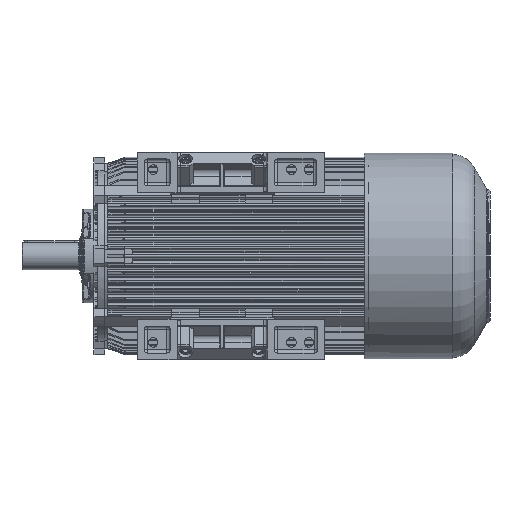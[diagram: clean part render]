
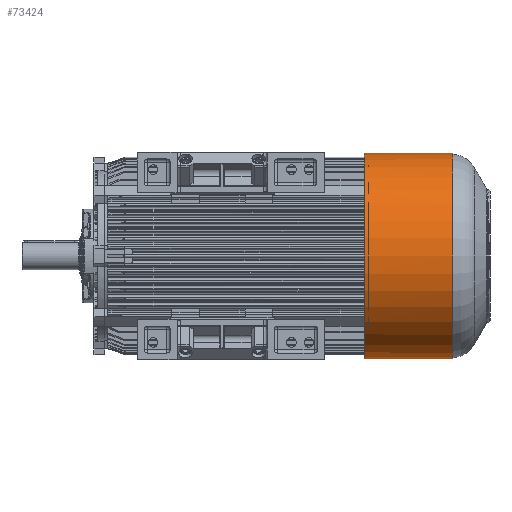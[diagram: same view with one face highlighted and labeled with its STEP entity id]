
A CAD part, front view. The second image highlights one B-rep face of the part: STEP entity #73424.
In plain terms, the highlighted cylindrical face has radius 302.496 mm (diameter 604.992 mm), a full revolution.
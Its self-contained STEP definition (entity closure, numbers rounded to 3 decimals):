
#1210=CYLINDRICAL_SURFACE('',#77933,302.496);
#1945=B_SPLINE_CURVE_WITH_KNOTS('',3,(#100395,#100396,#100397,#100398,#100399,
#100400,#100401,#100402,#100403,#100404,#100405,#100406,#100407,#100408,
#100409,#100410,#100411,#100412,#100413,#100414,#100415,#100416,#100417,
#100418,#100419,#100420,#100421,#100422,#100423),.UNSPECIFIED.,.F.,.F.,
(4,1,1,1,1,1,1,1,1,1,1,1,1,1,1,1,1,1,1,1,1,1,1,1,1,1,4),(0.,0.01,
0.015,0.02,0.03,0.04,
0.05,0.055,0.06,0.065,
0.07,0.075,0.08,0.085,
0.09,0.095,0.1,0.105,
0.11,0.12,0.125,0.13,
0.135,0.14,0.145,0.15,
0.16),.UNSPECIFIED.);
#5225=LINE('',#110905,#8985);
#5226=LINE('',#110907,#8986);
#8985=VECTOR('',#88666,1000.);
#8986=VECTOR('',#88669,1000.);
#18296=ORIENTED_EDGE('',*,*,#29583,.T.);
#18297=ORIENTED_EDGE('',*,*,#29579,.F.);
#18298=ORIENTED_EDGE('',*,*,#29572,.F.);
#18299=ORIENTED_EDGE('',*,*,#26916,.T.);
#18300=ORIENTED_EDGE('',*,*,#29571,.F.);
#18301=ORIENTED_EDGE('',*,*,#29578,.F.);
#18302=ORIENTED_EDGE('',*,*,#29590,.F.);
#26916=EDGE_CURVE('',#34027,#34025,#1945,.T.);
#29571=EDGE_CURVE('',#35796,#34025,#39419,.T.);
#29572=EDGE_CURVE('',#34027,#35797,#39420,.T.);
#29578=EDGE_CURVE('',#35801,#35796,#5225,.F.);
#29579=EDGE_CURVE('',#35797,#35802,#5226,.T.);
#29583=EDGE_CURVE('',#35805,#35805,#39423,.T.);
#29590=EDGE_CURVE('',#35802,#35801,#39430,.T.);
#34025=VERTEX_POINT('',#100393);
#34027=VERTEX_POINT('',#100424);
#35796=VERTEX_POINT('',#110892);
#35797=VERTEX_POINT('',#110894);
#35801=VERTEX_POINT('',#110904);
#35802=VERTEX_POINT('',#110908);
#35805=VERTEX_POINT('',#110916);
#39419=CIRCLE('',#77910,302.496);
#39420=CIRCLE('',#77911,302.496);
#39423=CIRCLE('',#77917,302.496);
#39430=CIRCLE('',#77932,302.496);
#42494=EDGE_LOOP('',(#18296));
#42495=EDGE_LOOP('',(#18297,#18298,#18299,#18300,#18301,#18302));
#46264=FACE_BOUND('',#42494,.T.);
#46265=FACE_BOUND('',#42495,.T.);
#73424=ADVANCED_FACE('',(#46264,#46265),#1210,.T.);
#77910=AXIS2_PLACEMENT_3D('',#110891,#88654,#88655);
#77911=AXIS2_PLACEMENT_3D('',#110893,#88656,#88657);
#77917=AXIS2_PLACEMENT_3D('',#110915,#88676,#88677);
#77932=AXIS2_PLACEMENT_3D('',#110936,#88706,#88707);
#77933=AXIS2_PLACEMENT_3D('',#110937,#88708,#88709);
#88654=DIRECTION('',(-1.,0.,0.));
#88655=DIRECTION('',(0.,0.,1.));
#88656=DIRECTION('',(-1.,0.,0.));
#88657=DIRECTION('',(0.,0.,1.));
#88666=DIRECTION('',(-1.,0.,0.));
#88669=DIRECTION('',(-1.,0.,0.));
#88676=DIRECTION('',(-1.,0.,0.));
#88677=DIRECTION('',(0.,1.,0.));
#88706=DIRECTION('',(-1.,0.,0.));
#88707=DIRECTION('',(0.,1.,0.));
#88708=DIRECTION('',(-1.,0.,0.));
#88709=DIRECTION('',(0.,1.,0.));
#100393=CARTESIAN_POINT('',(758.824,297.83,52.926));
#100395=CARTESIAN_POINT('',(758.824,297.83,-52.926));
#100396=CARTESIAN_POINT('',(762.21,297.862,-52.747));
#100397=CARTESIAN_POINT('',(767.182,297.995,-51.998));
#100398=CARTESIAN_POINT('',(773.594,298.322,-50.088));
#100399=CARTESIAN_POINT('',(779.88,298.743,-47.536));
#100400=CARTESIAN_POINT('',(787.068,299.394,-43.347));
#100401=CARTESIAN_POINT('',(794.742,300.297,-36.654));
#100402=CARTESIAN_POINT('',(799.863,301.018,-30.112));
#100403=CARTESIAN_POINT('',(803.244,301.535,-24.241));
#100404=CARTESIAN_POINT('',(805.321,301.868,-19.67));
#100405=CARTESIAN_POINT('',(806.955,302.14,-14.941));
#100406=CARTESIAN_POINT('',(808.145,302.343,-10.038));
#100407=CARTESIAN_POINT('',(808.866,302.469,-5.004));
#100408=CARTESIAN_POINT('',(809.1,302.51,0.004));
#100409=CARTESIAN_POINT('',(808.865,302.469,5.015));
#100410=CARTESIAN_POINT('',(808.142,302.343,10.055));
#100411=CARTESIAN_POINT('',(806.952,302.139,14.949));
#100412=CARTESIAN_POINT('',(805.317,301.867,19.681));
#100413=CARTESIAN_POINT('',(803.232,301.533,24.266));
#100414=CARTESIAN_POINT('',(799.853,301.016,30.125));
#100415=CARTESIAN_POINT('',(795.758,300.44,35.352));
#100416=CARTESIAN_POINT('',(790.878,299.842,40.033));
#100417=CARTESIAN_POINT('',(786.937,299.408,43.146));
#100418=CARTESIAN_POINT('',(782.743,299.003,45.862));
#100419=CARTESIAN_POINT('',(778.287,298.636,48.185));
#100420=CARTESIAN_POINT('',(773.575,298.321,50.094));
#100421=CARTESIAN_POINT('',(767.179,297.995,51.999));
#100422=CARTESIAN_POINT('',(762.211,297.862,52.747));
#100423=CARTESIAN_POINT('',(758.824,297.83,52.926));
#100424=CARTESIAN_POINT('',(758.824,297.83,-52.926));
#110891=CARTESIAN_POINT('',(758.824,0.,0.));
#110892=CARTESIAN_POINT('',(758.824,296.486,60.));
#110893=CARTESIAN_POINT('',(758.824,0.,0.));
#110894=CARTESIAN_POINT('',(758.824,296.486,-60.));
#110904=CARTESIAN_POINT('',(746.49,296.486,60.));
#110905=CARTESIAN_POINT('',(686.49,296.486,60.));
#110907=CARTESIAN_POINT('',(686.49,296.486,-60.));
#110908=CARTESIAN_POINT('',(746.49,296.486,-60.));
#110915=CARTESIAN_POINT('',(1006.49,0.,0.));
#110916=CARTESIAN_POINT('',(1006.49,302.496,0.));
#110936=CARTESIAN_POINT('',(746.49,0.,0.));
#110937=CARTESIAN_POINT('',(686.49,0.,0.));
